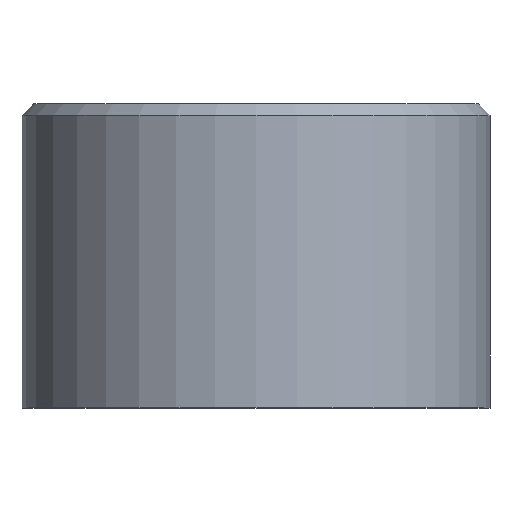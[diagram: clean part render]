
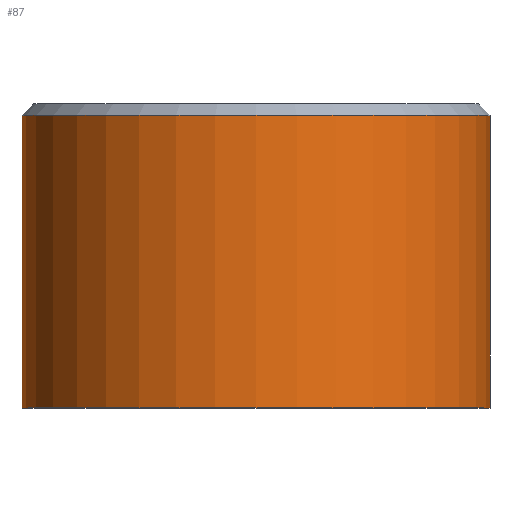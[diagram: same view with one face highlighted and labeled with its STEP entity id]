
A CAD part, top view. The second image highlights one B-rep face of the part: STEP entity #87.
In plain terms, the highlighted cylindrical face has radius 20 mm (diameter 40 mm), a full revolution.
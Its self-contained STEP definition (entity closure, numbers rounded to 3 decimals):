
#15=CYLINDRICAL_SURFACE('',#99,20.);
#23=FACE_BOUND('',#40,.T.);
#30=FACE_OUTER_BOUND('',#39,.T.);
#39=EDGE_LOOP('',(#74));
#40=EDGE_LOOP('',(#75));
#49=CIRCLE('',#95,20.);
#52=CIRCLE('',#100,20.);
#56=VERTEX_POINT('',#140);
#59=VERTEX_POINT('',#148);
#63=EDGE_CURVE('',#56,#56,#49,.T.);
#66=EDGE_CURVE('',#59,#59,#52,.T.);
#74=ORIENTED_EDGE('',*,*,#66,.T.);
#75=ORIENTED_EDGE('',*,*,#63,.F.);
#87=ADVANCED_FACE('',(#30,#23),#15,.T.);
#95=AXIS2_PLACEMENT_3D('',#141,#112,#113);
#99=AXIS2_PLACEMENT_3D('',#147,#120,#121);
#100=AXIS2_PLACEMENT_3D('',#149,#122,#123);
#112=DIRECTION('center_axis',(0.,1.,0.));
#113=DIRECTION('ref_axis',(1.,0.,0.));
#120=DIRECTION('center_axis',(0.,1.,0.));
#121=DIRECTION('ref_axis',(-1.,0.,0.));
#122=DIRECTION('center_axis',(0.,1.,0.));
#123=DIRECTION('ref_axis',(1.,0.,0.));
#140=CARTESIAN_POINT('',(-20.,25.,0.));
#141=CARTESIAN_POINT('Origin',(0.,25.,0.));
#147=CARTESIAN_POINT('Origin',(0.,13.,0.));
#148=CARTESIAN_POINT('',(-20.,0.,0.));
#149=CARTESIAN_POINT('Origin',(0.,0.,0.));
